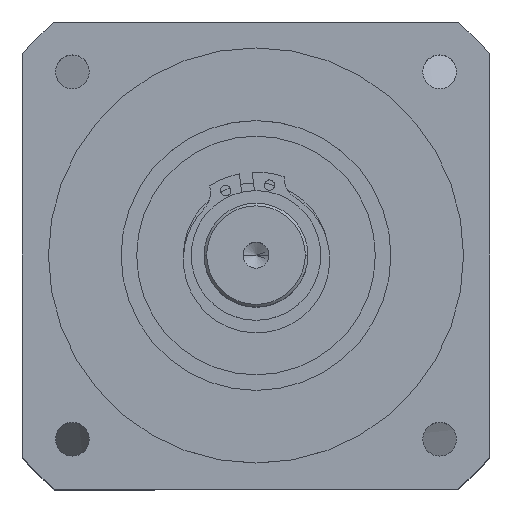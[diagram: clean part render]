
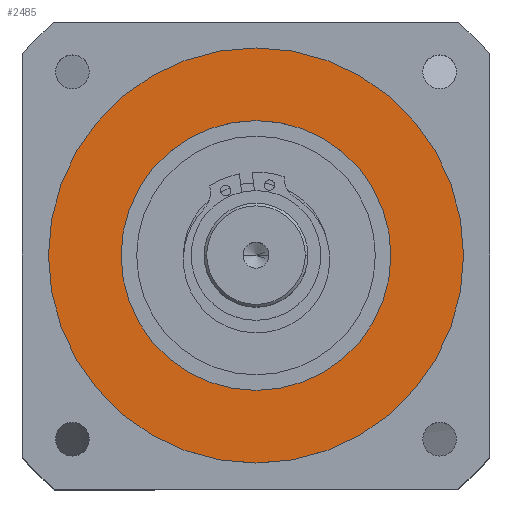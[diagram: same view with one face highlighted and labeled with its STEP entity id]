
A CAD part, top view. The second image highlights one B-rep face of the part: STEP entity #2485.
In plain terms, the highlighted planar face has unit normal (0, 0, 1).
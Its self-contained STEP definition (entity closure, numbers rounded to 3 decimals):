
#502 = DIRECTION ( 'NONE',  ( 0., 0., 1. ) ) ;
#751 = AXIS2_PLACEMENT_3D ( 'NONE', #14154, #12588, #17013 ) ;
#985 = DIRECTION ( 'NONE',  ( 0., 0., 1. ) ) ;
#1162 = CIRCLE ( 'NONE', #7628, 40. ) ;
#1430 = EDGE_CURVE ( 'NONE', #12482, #14721, #7973, .T. ) ;
#1805 = DIRECTION ( 'NONE',  ( 1., 0., 0. ) ) ;
#2262 = EDGE_LOOP ( 'NONE', ( #7137, #10957 ) ) ;
#2485 = ADVANCED_FACE ( 'NONE', ( #3452, #13788 ), #4479, .T. ) ;
#2854 = VERTEX_POINT ( 'NONE', #18523 ) ;
#3146 = CARTESIAN_POINT ( 'NONE',  ( 0., 0., 14.5 ) ) ;
#3421 = AXIS2_PLACEMENT_3D ( 'NONE', #10192, #15764, #5717 ) ;
#3452 = FACE_BOUND ( 'NONE', #8498, .T. ) ;
#3703 = CARTESIAN_POINT ( 'NONE',  ( 26., 0., 14.5 ) ) ;
#4479 = PLANE ( 'NONE',  #5192 ) ;
#4603 = DIRECTION ( 'NONE',  ( 0., 0., 1. ) ) ;
#5192 = AXIS2_PLACEMENT_3D ( 'NONE', #3146, #4603, #7171 ) ;
#5717 = DIRECTION ( 'NONE',  ( 1., 0., 0. ) ) ;
#6904 = VERTEX_POINT ( 'NONE', #7622 ) ;
#7137 = ORIENTED_EDGE ( 'NONE', *, *, #9480, .T. ) ;
#7171 = DIRECTION ( 'NONE',  ( 1., 0., 0. ) ) ;
#7622 = CARTESIAN_POINT ( 'NONE',  ( -40., 0., 14.5 ) ) ;
#7628 = AXIS2_PLACEMENT_3D ( 'NONE', #17817, #502, #1805 ) ;
#7973 = CIRCLE ( 'NONE', #751, 26. ) ;
#8498 = EDGE_LOOP ( 'NONE', ( #12293, #9988 ) ) ;
#9410 = CARTESIAN_POINT ( 'NONE',  ( 0., 0., 14.5 ) ) ;
#9480 = EDGE_CURVE ( 'NONE', #6904, #2854, #13443, .T. ) ;
#9988 = ORIENTED_EDGE ( 'NONE', *, *, #1430, .F. ) ;
#10192 = CARTESIAN_POINT ( 'NONE',  ( 0., 0., 14.5 ) ) ;
#10957 = ORIENTED_EDGE ( 'NONE', *, *, #15187, .T. ) ;
#12293 = ORIENTED_EDGE ( 'NONE', *, *, #13444, .F. ) ;
#12482 = VERTEX_POINT ( 'NONE', #17799 ) ;
#12557 = DIRECTION ( 'NONE',  ( 1., 0., 0. ) ) ;
#12588 = DIRECTION ( 'NONE',  ( 0., 0., 1. ) ) ;
#13443 = CIRCLE ( 'NONE', #3421, 40. ) ;
#13444 = EDGE_CURVE ( 'NONE', #14721, #12482, #15607, .T. ) ;
#13788 = FACE_OUTER_BOUND ( 'NONE', #2262, .T. ) ;
#14154 = CARTESIAN_POINT ( 'NONE',  ( 0., 0., 14.5 ) ) ;
#14721 = VERTEX_POINT ( 'NONE', #3703 ) ;
#15187 = EDGE_CURVE ( 'NONE', #2854, #6904, #1162, .T. ) ;
#15607 = CIRCLE ( 'NONE', #17371, 26. ) ;
#15764 = DIRECTION ( 'NONE',  ( 0., 0., 1. ) ) ;
#17013 = DIRECTION ( 'NONE',  ( 1., 0., 0. ) ) ;
#17371 = AXIS2_PLACEMENT_3D ( 'NONE', #9410, #985, #12557 ) ;
#17799 = CARTESIAN_POINT ( 'NONE',  ( -26., 0., 14.5 ) ) ;
#17817 = CARTESIAN_POINT ( 'NONE',  ( 0., 0., 14.5 ) ) ;
#18523 = CARTESIAN_POINT ( 'NONE',  ( 40., 0., 14.5 ) ) ;
